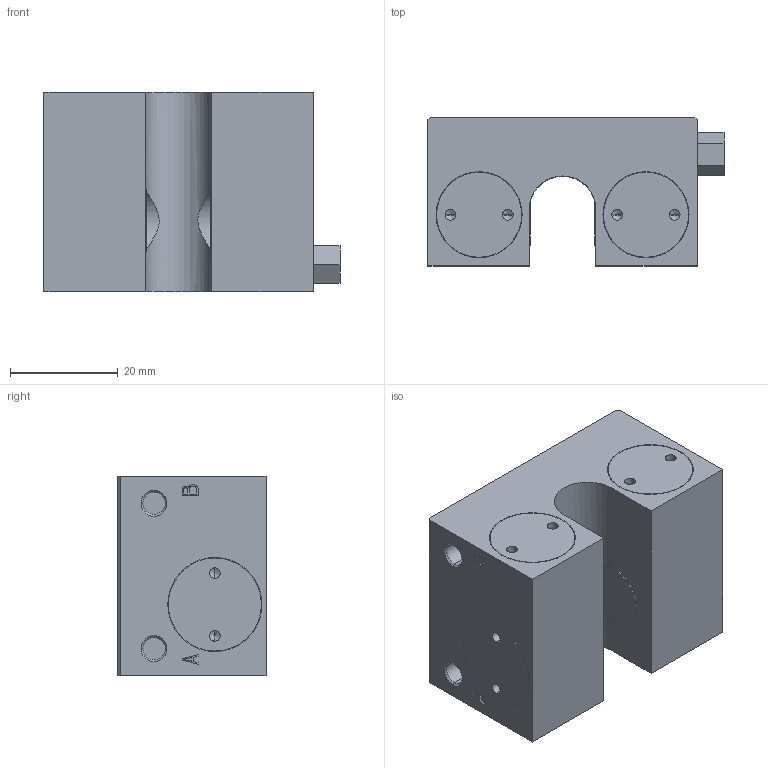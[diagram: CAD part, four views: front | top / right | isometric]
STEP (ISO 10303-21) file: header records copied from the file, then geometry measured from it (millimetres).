
FILE_DESCRIPTION( ( '' ), '1' );
FILE_NAME( 'E:/04 嬴檜蠱滌/0404 ZIMMER/040414 ZIMMER CAD download/MKR/MKR1200A.stp', '2020-04-16T10:09:58', ( '' ), ( '' ), ' ', ' ', ' ' );
FILE_SCHEMA( ( 'automotive_design' ) );
Length unit declared in the file: millimetre
Products named in the file (1): 1
Bounding box: 55 x 27.5 x 37 mm (x, y, z)
Volume: 43283.3 mm3; surface area: 11634 mm2
Topology: 1 solids, 2 shells, 184 faces, 430 edges, 268 vertices
Faces by surface type: plane 87, cylinder 65, cone 32
Entity records: 10228 total; most frequent: CARTESIAN_POINT 1073, DIRECTION 922, STYLED_ITEM 867, PRESENTATION_STYLE_ASSIGNMENT 867, COLOUR_RGB 867, ORIENTED_EDGE 828, EDGE_CURVE 414, CURVE_STYLE 414
